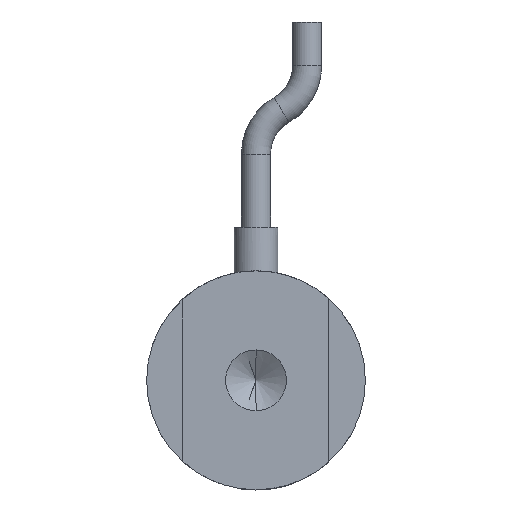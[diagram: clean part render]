
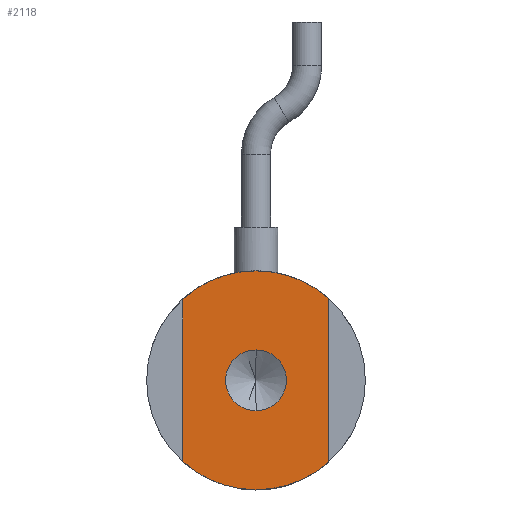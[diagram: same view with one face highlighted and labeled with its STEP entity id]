
A CAD part, front view. The second image highlights one B-rep face of the part: STEP entity #2118.
In plain terms, the highlighted planar face has unit normal (0, -1, 0).
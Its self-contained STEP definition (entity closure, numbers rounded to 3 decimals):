
#277 = FACE_OUTER_BOUND ( 'NONE', #3695, .T. ) ;
#361 = VERTEX_POINT ( 'NONE', #14835 ) ;
#438 = DIRECTION ( 'NONE',  ( 0., 0., 1. ) ) ;
#1732 = DIRECTION ( 'NONE',  ( 0., 0., 1. ) ) ;
#2118 = ADVANCED_FACE ( 'NONE', ( #15789, #277 ), #3031, .F. ) ;
#2540 = EDGE_LOOP ( 'NONE', ( #37998, #41035 ) ) ;
#3031 = PLANE ( 'NONE',  #21795 ) ;
#3163 = ORIENTED_EDGE ( 'NONE', *, *, #33248, .F. ) ;
#3684 = CARTESIAN_POINT ( 'NONE',  ( 0.007, 4.688, -4.401 ) ) ;
#3695 = EDGE_LOOP ( 'NONE', ( #26133, #17089, #3163, #5179, #5355, #28019 ) ) ;
#4640 = VECTOR ( 'NONE', #25259, 1000. ) ;
#4759 = CARTESIAN_POINT ( 'NONE',  ( -3., 4.688, -3.249 ) ) ;
#4807 = CIRCLE ( 'NONE', #19872, 4.5 ) ;
#4956 = EDGE_CURVE ( 'NONE', #19519, #38242, #4807, .T. ) ;
#5179 = ORIENTED_EDGE ( 'NONE', *, *, #41668, .T. ) ;
#5355 = ORIENTED_EDGE ( 'NONE', *, *, #30568, .F. ) ;
#8319 = VERTEX_POINT ( 'NONE', #26684 ) ;
#8993 = AXIS2_PLACEMENT_3D ( 'NONE', #19270, #42459, #22593 ) ;
#9680 = DIRECTION ( 'NONE',  ( 0., 1., 0. ) ) ;
#10893 = DIRECTION ( 'NONE',  ( 0., -1., 0. ) ) ;
#10923 = VERTEX_POINT ( 'NONE', #27878 ) ;
#11068 = EDGE_CURVE ( 'NONE', #19519, #16596, #20177, .T. ) ;
#13649 = CARTESIAN_POINT ( 'NONE',  ( 3., 4.688, 3.459 ) ) ;
#14835 = CARTESIAN_POINT ( 'NONE',  ( -3., 4.688, 3.447 ) ) ;
#15071 = AXIS2_PLACEMENT_3D ( 'NONE', #18191, #41399, #21525 ) ;
#15789 = FACE_BOUND ( 'NONE', #2540, .T. ) ;
#16596 = VERTEX_POINT ( 'NONE', #13649 ) ;
#17089 = ORIENTED_EDGE ( 'NONE', *, *, #29390, .F. ) ;
#17390 = CIRCLE ( 'NONE', #39033, 4.5 ) ;
#17838 = DIRECTION ( 'NONE',  ( 0., 0., -1. ) ) ;
#18071 = VERTEX_POINT ( 'NONE', #4759 ) ;
#18191 = CARTESIAN_POINT ( 'NONE',  ( 0.007, 4.688, 0.099 ) ) ;
#18411 = DIRECTION ( 'NONE',  ( 0., -1., 0. ) ) ;
#18885 = CIRCLE ( 'NONE', #33894, 1.25 ) ;
#19270 = CARTESIAN_POINT ( 'NONE',  ( 0.007, 4.688, 0.099 ) ) ;
#19382 = CARTESIAN_POINT ( 'NONE',  ( 0.007, 4.688, 0.099 ) ) ;
#19435 = AXIS2_PLACEMENT_3D ( 'NONE', #38336, #18411, #41647 ) ;
#19519 = VERTEX_POINT ( 'NONE', #26916 ) ;
#19872 = AXIS2_PLACEMENT_3D ( 'NONE', #40154, #20272, #438 ) ;
#20164 = VECTOR ( 'NONE', #17838, 1000. ) ;
#20177 = LINE ( 'NONE', #41790, #4640 ) ;
#20272 = DIRECTION ( 'NONE',  ( 0., 1., 0. ) ) ;
#21525 = DIRECTION ( 'NONE',  ( 0., 0., 1. ) ) ;
#21546 = DIRECTION ( 'NONE',  ( 0., 1., 0. ) ) ;
#21795 = AXIS2_PLACEMENT_3D ( 'NONE', #19382, #9680, #32883 ) ;
#22548 = EDGE_CURVE ( 'NONE', #24344, #10923, #18885, .T. ) ;
#22593 = DIRECTION ( 'NONE',  ( 0., 0., 1. ) ) ;
#24344 = VERTEX_POINT ( 'NONE', #36479 ) ;
#24630 = EDGE_CURVE ( 'NONE', #10923, #24344, #33897, .T. ) ;
#25259 = DIRECTION ( 'NONE',  ( 0., 0., 1. ) ) ;
#26133 = ORIENTED_EDGE ( 'NONE', *, *, #11068, .T. ) ;
#26684 = CARTESIAN_POINT ( 'NONE',  ( 0.007, 4.688, 4.599 ) ) ;
#26916 = CARTESIAN_POINT ( 'NONE',  ( 3., 4.688, -3.262 ) ) ;
#27706 = CARTESIAN_POINT ( 'NONE',  ( -3., 4.688, -16.289 ) ) ;
#27878 = CARTESIAN_POINT ( 'NONE',  ( 0.007, 4.688, 1.349 ) ) ;
#27936 = LINE ( 'NONE', #27706, #20164 ) ;
#28019 = ORIENTED_EDGE ( 'NONE', *, *, #4956, .F. ) ;
#29390 = EDGE_CURVE ( 'NONE', #8319, #16596, #42927, .T. ) ;
#30568 = EDGE_CURVE ( 'NONE', #38242, #18071, #37225, .T. ) ;
#30740 = CARTESIAN_POINT ( 'NONE',  ( 0.007, 4.688, 0.099 ) ) ;
#32883 = DIRECTION ( 'NONE',  ( 0., 0., 1. ) ) ;
#33248 = EDGE_CURVE ( 'NONE', #361, #8319, #17390, .T. ) ;
#33894 = AXIS2_PLACEMENT_3D ( 'NONE', #30740, #10893, #34070 ) ;
#33897 = CIRCLE ( 'NONE', #19435, 1.25 ) ;
#34070 = DIRECTION ( 'NONE',  ( 0., 0., -1. ) ) ;
#36479 = CARTESIAN_POINT ( 'NONE',  ( 0.007, 4.688, -1.151 ) ) ;
#37225 = CIRCLE ( 'NONE', #8993, 4.5 ) ;
#37998 = ORIENTED_EDGE ( 'NONE', *, *, #22548, .F. ) ;
#38242 = VERTEX_POINT ( 'NONE', #3684 ) ;
#38336 = CARTESIAN_POINT ( 'NONE',  ( 0.007, 4.688, 0.099 ) ) ;
#39033 = AXIS2_PLACEMENT_3D ( 'NONE', #41420, #21546, #1732 ) ;
#40154 = CARTESIAN_POINT ( 'NONE',  ( 0.007, 4.688, 0.099 ) ) ;
#41035 = ORIENTED_EDGE ( 'NONE', *, *, #24630, .F. ) ;
#41399 = DIRECTION ( 'NONE',  ( 0., 1., 0. ) ) ;
#41420 = CARTESIAN_POINT ( 'NONE',  ( 0.007, 4.688, 0.099 ) ) ;
#41647 = DIRECTION ( 'NONE',  ( 0., 0., -1. ) ) ;
#41668 = EDGE_CURVE ( 'NONE', #361, #18071, #27936, .T. ) ;
#41790 = CARTESIAN_POINT ( 'NONE',  ( 3., 4.688, -16.289 ) ) ;
#42459 = DIRECTION ( 'NONE',  ( 0., 1., 0. ) ) ;
#42927 = CIRCLE ( 'NONE', #15071, 4.5 ) ;
